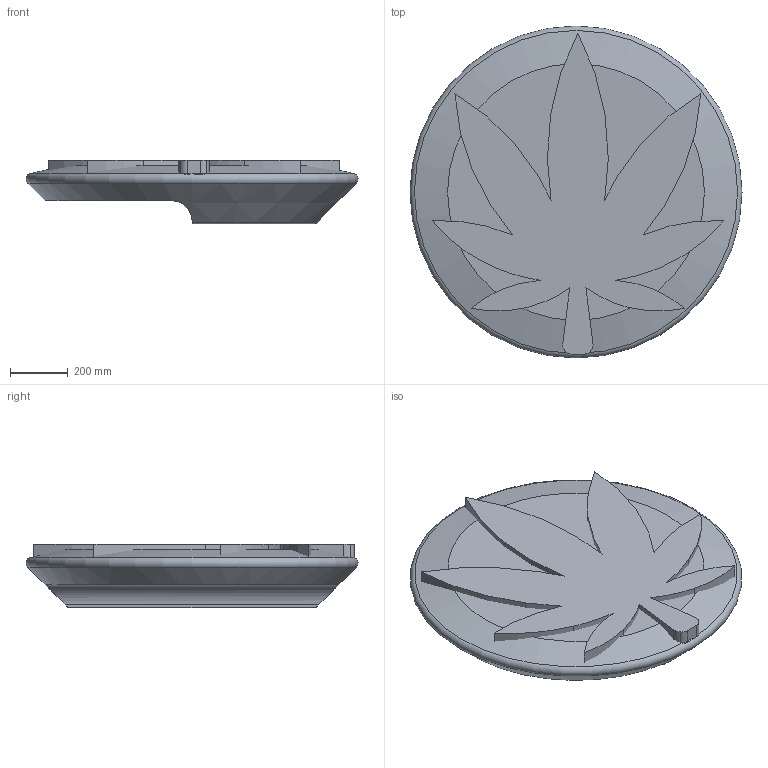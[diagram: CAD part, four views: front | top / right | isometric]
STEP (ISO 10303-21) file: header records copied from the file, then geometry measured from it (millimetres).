
FILE_DESCRIPTION(/* description */ (''),/* implementation_level */ '2;1');
FILE_NAME(/* name */ 'C:/Users/Flo/ownCloud/3d_printing/my_creations/Crafter_Emblem v3.step',/* time_stamp */ '2018-07-06T18:24:01+02:00',/* author */ ('D4rkH3lmet'),/* organization */ (''),/* preprocessor_version */ 'ST-DEVELOPER v17',/* originating_system */ 'Autodesk Translation Framework v7.1.0.215',/* authorisation */ '');
FILE_SCHEMA (('AUTOMOTIVE_DESIGN { 1 0 10303 214 3 1 1 }'));
Length unit declared in the file: millimetre
Products named in the file (2): Crafter_Emblem; Cannabis
Assembly tree (1 placements, depth 2):
  Crafter_Emblem
    Cannabis
Bounding box: 1153.09 x 1153.09 x 220.66 mm (x, y, z)
Volume: 162663293.8 mm3; surface area: 3683309.1 mm2
Topology: 2 solids, 2 shells, 48 faces, 128 edges, 86 vertices
Faces by surface type: bspline 30, plane 11, cylinder 3, torus 2, cone 2
Full cylindrical faces by diameter (mm): 59 x2
Entity records: 1663 total; most frequent: CARTESIAN_POINT 645, ORIENTED_EDGE 256, EDGE_CURVE 128, DIRECTION 126, VERTEX_POINT 86, EDGE_LOOP 50, FACE_OUTER_BOUND 48, LINE 48
